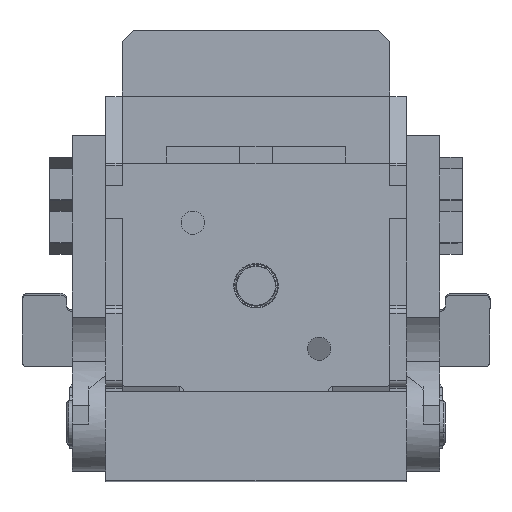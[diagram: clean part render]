
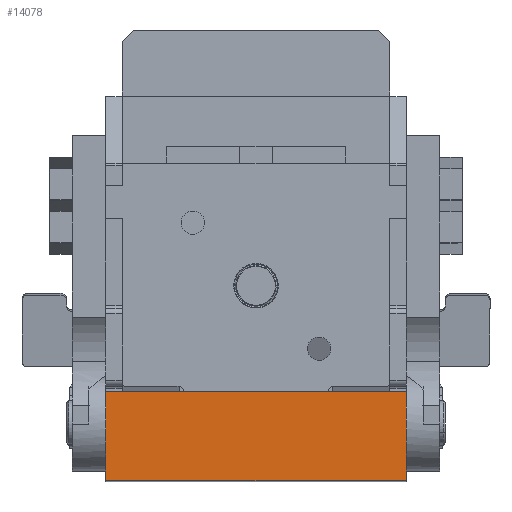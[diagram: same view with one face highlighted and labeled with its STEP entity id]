
A CAD part, top view. The second image highlights one B-rep face of the part: STEP entity #14078.
In plain terms, the highlighted planar face has unit normal (0, 0, 1) as drawn and (1, 0, 0) by its records, which use the part's own axes.
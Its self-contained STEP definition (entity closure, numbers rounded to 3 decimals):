
#4316 = LINE ( 'NONE', #30782, #13945 ) ;
#5112 = DIRECTION ( 'NONE',  ( 0., 1., 0. ) ) ;
#6791 = AXIS2_PLACEMENT_3D ( 'NONE', #49791, #44167, #23224 ) ;
#7669 = ORIENTED_EDGE ( 'NONE', *, *, #31398, .F. ) ;
#8139 = CARTESIAN_POINT ( 'NONE',  ( 0., -8., 0. ) ) ;
#9924 = DIRECTION ( 'NONE',  ( 0., 0., -1. ) ) ;
#11488 = LINE ( 'NONE', #46125, #32933 ) ;
#11631 = CARTESIAN_POINT ( 'NONE',  ( 0., 0., 0. ) ) ;
#13945 = VECTOR ( 'NONE', #9924, 1000. ) ;
#13961 = CARTESIAN_POINT ( 'NONE',  ( 0., -8., 27. ) ) ;
#14078 = ADVANCED_FACE ( 'NONE', ( #28085 ), #43310, .F. ) ;
#15998 = VECTOR ( 'NONE', #19656, 1000. ) ;
#19477 = EDGE_CURVE ( 'NONE', #21380, #38417, #29234, .T. ) ;
#19656 = DIRECTION ( 'NONE',  ( 0., 1., 0. ) ) ;
#21380 = VERTEX_POINT ( 'NONE', #29334 ) ;
#22482 = EDGE_CURVE ( 'NONE', #21380, #42898, #11488, .T. ) ;
#22801 = VERTEX_POINT ( 'NONE', #44384 ) ;
#23224 = DIRECTION ( 'NONE',  ( 0., -1., 0. ) ) ;
#25073 = ORIENTED_EDGE ( 'NONE', *, *, #34650, .T. ) ;
#28085 = FACE_OUTER_BOUND ( 'NONE', #46611, .T. ) ;
#29234 = LINE ( 'NONE', #13961, #40221 ) ;
#29334 = CARTESIAN_POINT ( 'NONE',  ( 0., -8., 27. ) ) ;
#30097 = ORIENTED_EDGE ( 'NONE', *, *, #19477, .T. ) ;
#30782 = CARTESIAN_POINT ( 'NONE',  ( 0., 0., 27. ) ) ;
#31398 = EDGE_CURVE ( 'NONE', #42898, #22801, #4316, .T. ) ;
#32933 = VECTOR ( 'NONE', #5112, 1000. ) ;
#34650 = EDGE_CURVE ( 'NONE', #38417, #22801, #34947, .T. ) ;
#34947 = LINE ( 'NONE', #11631, #15998 ) ;
#35522 = CARTESIAN_POINT ( 'NONE',  ( 0., 0., 27. ) ) ;
#38417 = VERTEX_POINT ( 'NONE', #8139 ) ;
#39404 = ORIENTED_EDGE ( 'NONE', *, *, #22482, .F. ) ;
#40221 = VECTOR ( 'NONE', #49394, 1000. ) ;
#42898 = VERTEX_POINT ( 'NONE', #35522 ) ;
#43310 = PLANE ( 'NONE',  #6791 ) ;
#44167 = DIRECTION ( 'NONE',  ( -1., 0., 0. ) ) ;
#44384 = CARTESIAN_POINT ( 'NONE',  ( 0., 0., 0. ) ) ;
#46125 = CARTESIAN_POINT ( 'NONE',  ( 0., 0., 27. ) ) ;
#46611 = EDGE_LOOP ( 'NONE', ( #25073, #7669, #39404, #30097 ) ) ;
#49394 = DIRECTION ( 'NONE',  ( 0., 0., -1. ) ) ;
#49791 = CARTESIAN_POINT ( 'NONE',  ( 0., 0., 27. ) ) ;
